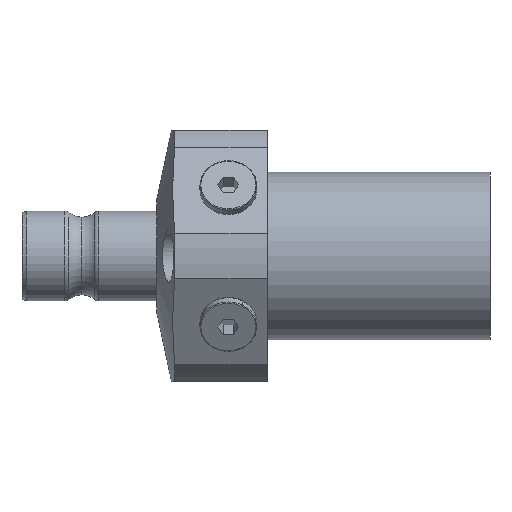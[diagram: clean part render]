
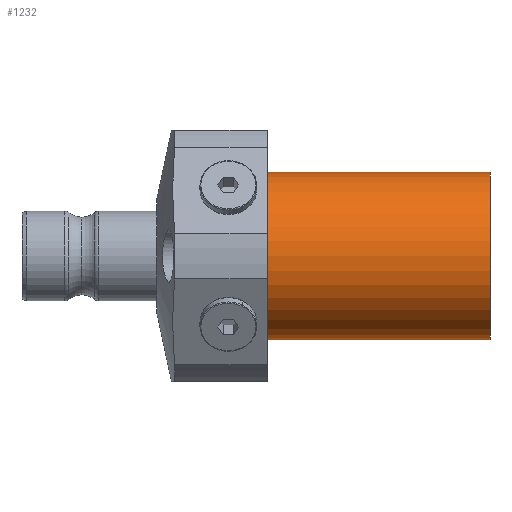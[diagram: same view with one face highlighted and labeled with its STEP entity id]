
A CAD part, left-side view. The second image highlights one B-rep face of the part: STEP entity #1232.
In plain terms, the highlighted cylindrical face has radius 28 mm (diameter 56 mm), a partial arc.
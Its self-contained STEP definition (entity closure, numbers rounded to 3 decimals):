
#212 = CARTESIAN_POINT ( 'NONE',  ( 0., 0., 0. ) ) ;
#244 = EDGE_CURVE ( 'NONE', #908, #2535, #1150, .T. ) ;
#370 = EDGE_CURVE ( 'NONE', #2632, #2535, #758, .T. ) ;
#453 = CARTESIAN_POINT ( 'NONE',  ( 0., 74.5, 28. ) ) ;
#534 = DIRECTION ( 'NONE',  ( 0., 0., -1. ) ) ;
#667 = EDGE_LOOP ( 'NONE', ( #1026, #1461, #1524, #2549 ) ) ;
#695 = CIRCLE ( 'NONE', #2276, 28. ) ;
#758 = LINE ( 'NONE', #1050, #3983 ) ;
#908 = VERTEX_POINT ( 'NONE', #2049 ) ;
#996 = VERTEX_POINT ( 'NONE', #453 ) ;
#1026 = ORIENTED_EDGE ( 'NONE', *, *, #2843, .F. ) ;
#1050 = CARTESIAN_POINT ( 'NONE',  ( 0., 0., -28. ) ) ;
#1088 = DIRECTION ( 'NONE',  ( 0., -1., 0. ) ) ;
#1150 = CIRCLE ( 'NONE', #2513, 28. ) ;
#1232 = ADVANCED_FACE ( 'NONE', ( #4026 ), #2367, .T. ) ;
#1461 = ORIENTED_EDGE ( 'NONE', *, *, #2569, .T. ) ;
#1524 = ORIENTED_EDGE ( 'NONE', *, *, #370, .T. ) ;
#1536 = DIRECTION ( 'NONE',  ( 0., -1., 0. ) ) ;
#1710 = DIRECTION ( 'NONE',  ( 0., 0., -1. ) ) ;
#1945 = DIRECTION ( 'NONE',  ( 0., -1., 0. ) ) ;
#1979 = DIRECTION ( 'NONE',  ( 0., -1., 0. ) ) ;
#2049 = CARTESIAN_POINT ( 'NONE',  ( 0., 0., 28. ) ) ;
#2178 = CARTESIAN_POINT ( 'NONE',  ( 0., 74.5, -28. ) ) ;
#2276 = AXIS2_PLACEMENT_3D ( 'NONE', #3410, #1536, #3725 ) ;
#2367 = CYLINDRICAL_SURFACE ( 'NONE', #2678, 28. ) ;
#2420 = DIRECTION ( 'NONE',  ( 0., -1., 0. ) ) ;
#2496 = VECTOR ( 'NONE', #1945, 1000. ) ;
#2513 = AXIS2_PLACEMENT_3D ( 'NONE', #212, #2420, #534 ) ;
#2535 = VERTEX_POINT ( 'NONE', #2714 ) ;
#2549 = ORIENTED_EDGE ( 'NONE', *, *, #244, .F. ) ;
#2569 = EDGE_CURVE ( 'NONE', #996, #2632, #695, .T. ) ;
#2632 = VERTEX_POINT ( 'NONE', #2178 ) ;
#2678 = AXIS2_PLACEMENT_3D ( 'NONE', #3578, #1088, #1710 ) ;
#2699 = LINE ( 'NONE', #3190, #2496 ) ;
#2714 = CARTESIAN_POINT ( 'NONE',  ( 0., 0., -28. ) ) ;
#2843 = EDGE_CURVE ( 'NONE', #996, #908, #2699, .T. ) ;
#3190 = CARTESIAN_POINT ( 'NONE',  ( 0., 0., 28. ) ) ;
#3410 = CARTESIAN_POINT ( 'NONE',  ( 0., 74.5, 0. ) ) ;
#3578 = CARTESIAN_POINT ( 'NONE',  ( 0., 0., 0. ) ) ;
#3725 = DIRECTION ( 'NONE',  ( 0., 0., -1. ) ) ;
#3983 = VECTOR ( 'NONE', #1979, 1000. ) ;
#4026 = FACE_OUTER_BOUND ( 'NONE', #667, .T. ) ;
